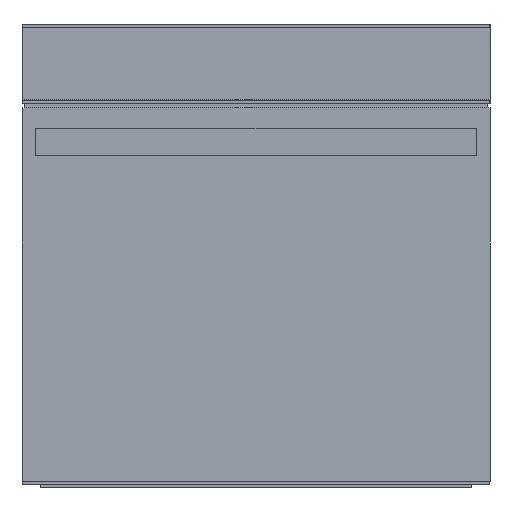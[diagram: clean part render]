
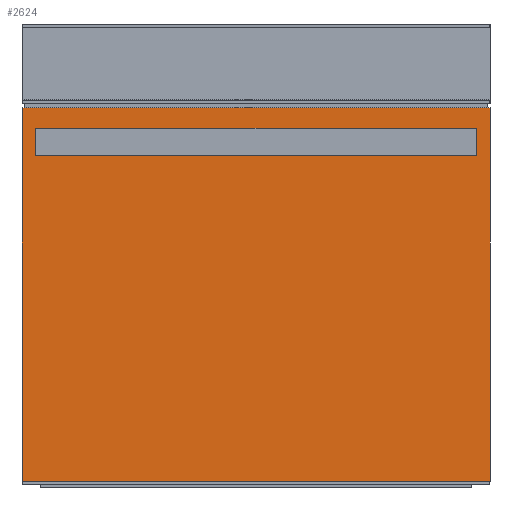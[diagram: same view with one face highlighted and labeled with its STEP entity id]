
A CAD part, front view. The second image highlights one B-rep face of the part: STEP entity #2624.
In plain terms, the highlighted planar face has unit normal (0, -1, 0).
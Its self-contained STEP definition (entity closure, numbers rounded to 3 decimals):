
#659=ORIENTED_EDGE('',*,*,#959,.F.);
#660=ORIENTED_EDGE('',*,*,#960,.F.);
#661=ORIENTED_EDGE('',*,*,#961,.T.);
#662=ORIENTED_EDGE('',*,*,#962,.T.);
#959=EDGE_CURVE('',#1158,#1159,#1382,.T.);
#960=EDGE_CURVE('',#1160,#1158,#1383,.T.);
#961=EDGE_CURVE('',#1160,#1161,#1384,.T.);
#962=EDGE_CURVE('',#1161,#1159,#1385,.T.);
#1158=VERTEX_POINT('',#4361);
#1159=VERTEX_POINT('',#4362);
#1160=VERTEX_POINT('',#4364);
#1161=VERTEX_POINT('',#4366);
#1382=LINE('',#4360,#1610);
#1383=LINE('',#4363,#1611);
#1384=LINE('',#4365,#1612);
#1385=LINE('',#4367,#1613);
#1610=VECTOR('',#3219,1000.);
#1611=VECTOR('',#3220,1000.);
#1612=VECTOR('',#3221,1000.);
#1613=VECTOR('',#3222,1000.);
#1720=EDGE_LOOP('',(#659,#660,#661,#662));
#1827=FACE_BOUND('',#1720,.T.);
#1915=PLANE('',#2758);
#2624=ADVANCED_FACE('',(#1827),#1915,.F.);
#2758=AXIS2_PLACEMENT_3D('',#4359,#3217,#3218);
#3217=DIRECTION('',(0.,1.,0.));
#3218=DIRECTION('',(0.,0.,1.));
#3219=DIRECTION('',(1.,0.,0.));
#3220=DIRECTION('',(0.,0.,1.));
#3221=DIRECTION('',(1.,0.,0.));
#3222=DIRECTION('',(0.,0.,1.));
#4359=CARTESIAN_POINT('',(600.,-292.32,25.396));
#4360=CARTESIAN_POINT('',(600.,-292.32,502.4));
#4361=CARTESIAN_POINT('',(301.5,-292.32,502.4));
#4362=CARTESIAN_POINT('',(898.5,-292.32,502.4));
#4363=CARTESIAN_POINT('',(301.5,-292.32,25.396));
#4364=CARTESIAN_POINT('',(301.5,-292.32,25.396));
#4365=CARTESIAN_POINT('',(600.,-292.32,25.396));
#4366=CARTESIAN_POINT('',(898.5,-292.32,25.396));
#4367=CARTESIAN_POINT('',(898.5,-292.32,25.396));
